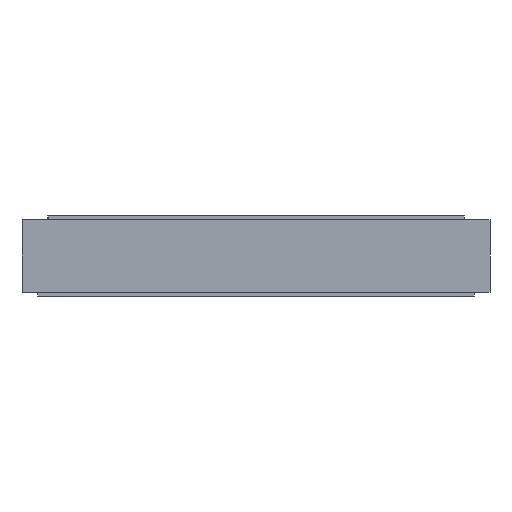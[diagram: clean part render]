
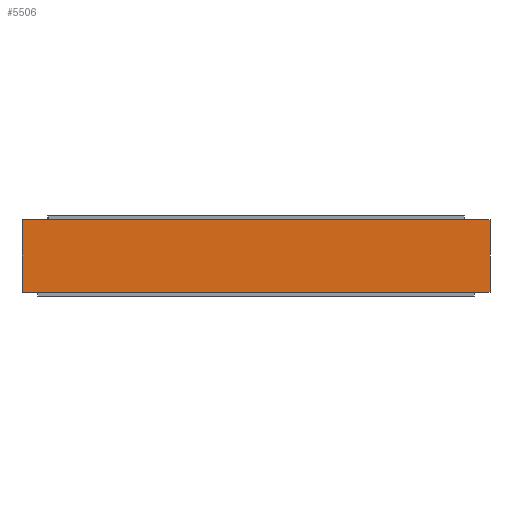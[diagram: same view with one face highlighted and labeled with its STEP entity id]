
A CAD part, left-side view. The second image highlights one B-rep face of the part: STEP entity #5506.
In plain terms, the highlighted planar face has unit normal (-1, 0, 0).
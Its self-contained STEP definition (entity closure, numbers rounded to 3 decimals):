
#139 = ORIENTED_EDGE ( 'NONE', *, *, #2503, .F. ) ;
#508 = VERTEX_POINT ( 'NONE', #16396 ) ;
#2118 = CARTESIAN_POINT ( 'NONE',  ( -102.5, 2.25, -0.7 ) ) ;
#2503 = EDGE_CURVE ( 'NONE', #17115, #24736, #12577, .T. ) ;
#5506 = ADVANCED_FACE ( 'NONE', ( #26474 ), #23571, .T. ) ;
#6344 = VECTOR ( 'NONE', #33958, 1000. ) ;
#6924 = CARTESIAN_POINT ( 'NONE',  ( -102.5, 2.25, -0.7 ) ) ;
#7579 = DIRECTION ( 'NONE',  ( 0., 0., 1. ) ) ;
#12070 = ORIENTED_EDGE ( 'NONE', *, *, #19454, .F. ) ;
#12577 = LINE ( 'NONE', #33271, #23445 ) ;
#15340 = CARTESIAN_POINT ( 'NONE',  ( -102.5, 2.25, 0. ) ) ;
#15945 = LINE ( 'NONE', #33838, #6344 ) ;
#16396 = CARTESIAN_POINT ( 'NONE',  ( -102.5, 2.25, -0.7 ) ) ;
#16729 = LINE ( 'NONE', #6924, #27252 ) ;
#17115 = VERTEX_POINT ( 'NONE', #15340 ) ;
#17152 = DIRECTION ( 'NONE',  ( 0., -1., 0. ) ) ;
#17740 = CARTESIAN_POINT ( 'NONE',  ( -102.5, -2.25, 0. ) ) ;
#18019 = ORIENTED_EDGE ( 'NONE', *, *, #28779, .T. ) ;
#19454 = EDGE_CURVE ( 'NONE', #508, #17115, #16729, .T. ) ;
#21256 = LINE ( 'NONE', #29698, #33865 ) ;
#22633 = ORIENTED_EDGE ( 'NONE', *, *, #24663, .T. ) ;
#23325 = EDGE_LOOP ( 'NONE', ( #139, #12070, #22633, #18019 ) ) ;
#23445 = VECTOR ( 'NONE', #17152, 1000. ) ;
#23571 = PLANE ( 'NONE',  #25727 ) ;
#24029 = DIRECTION ( 'NONE',  ( 0., 0., 1. ) ) ;
#24663 = EDGE_CURVE ( 'NONE', #508, #29386, #15945, .T. ) ;
#24736 = VERTEX_POINT ( 'NONE', #17740 ) ;
#25727 = AXIS2_PLACEMENT_3D ( 'NONE', #2118, #28774, #7579 ) ;
#26252 = CARTESIAN_POINT ( 'NONE',  ( -102.5, -2.25, -0.7 ) ) ;
#26474 = FACE_OUTER_BOUND ( 'NONE', #23325, .T. ) ;
#27252 = VECTOR ( 'NONE', #28451, 1000. ) ;
#28451 = DIRECTION ( 'NONE',  ( 0., 0., 1. ) ) ;
#28774 = DIRECTION ( 'NONE',  ( -1., 0., 0. ) ) ;
#28779 = EDGE_CURVE ( 'NONE', #29386, #24736, #21256, .T. ) ;
#29386 = VERTEX_POINT ( 'NONE', #26252 ) ;
#29698 = CARTESIAN_POINT ( 'NONE',  ( -102.5, -2.25, -0.7 ) ) ;
#33271 = CARTESIAN_POINT ( 'NONE',  ( -102.5, 2.25, 0. ) ) ;
#33838 = CARTESIAN_POINT ( 'NONE',  ( -102.5, 2.25, -0.7 ) ) ;
#33865 = VECTOR ( 'NONE', #24029, 1000. ) ;
#33958 = DIRECTION ( 'NONE',  ( 0., -1., 0. ) ) ;
